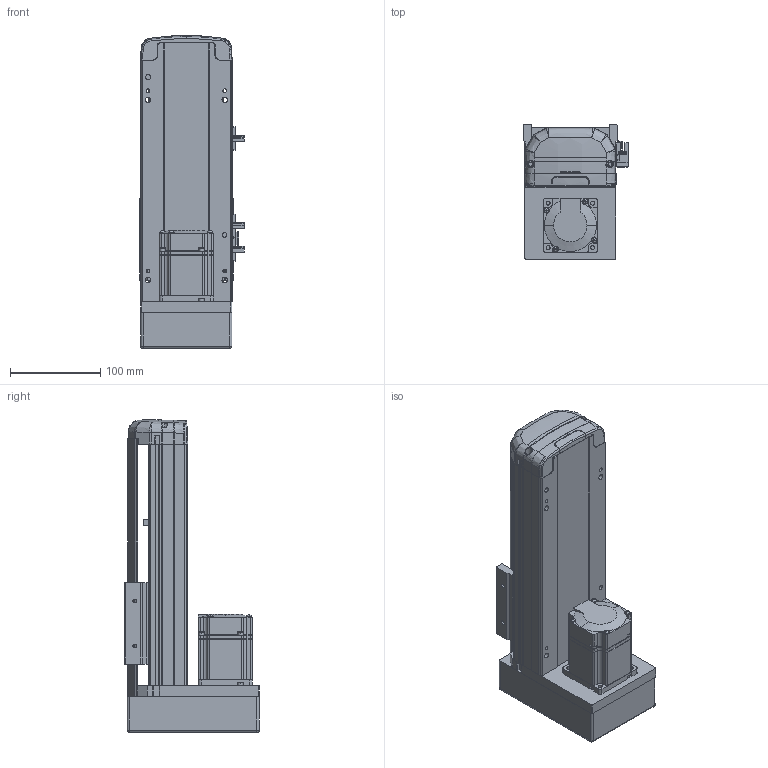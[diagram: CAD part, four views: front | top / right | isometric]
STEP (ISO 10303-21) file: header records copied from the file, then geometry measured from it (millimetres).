
FILE_DESCRIPTION (( 'STEP AP214' ), '1' );
FILE_NAME ('RTH10-XX-100-M-M20-C4.STEP', '2025-10-25T04:02:55', ( 'Microsoft' ), ( 'Microsoft' ), 'SwSTEP 2.0', 'SolidWorks 2018', '' );
FILE_SCHEMA (( 'AUTOMOTIVE_DESIGN' ));
Length unit declared in the file: millimetre
Products named in the file (10): N_RTH12-M-008-萇儂啣^RTH10-XX-XX-M-M20-C4; N_200W-1^RTH10-XX-XX-M-M20-C4; N_RTH12-M-007P-奻裔^RTH10-XX-XX-M-M20-C4; N_OMRON EE-SX672 传感器^RTH10-XX-XX-M-M20-C4; N_RTH12-M-011P-臏倰第菁釱^RTH10-XX-XX-M-M20-C4; N_RTH12-GY-001P^RTH10-XX-XX-M-M20-C4; RTH10-XX-100-M-M20-C4; N_RTH13-L-012覜茼え俋离^RTH10-XX-XX-M-M20-C4; N_RTH12-GY-004-賑釱^RTH10-XX-XX-M-M20-C4; N_RTH12-M-018-裔赽^RTH10-XX-XX-M-M20-C4
Assembly tree (11 placements, depth 2):
  RTH10-XX-100-M-M20-C4
    N_RTH12-M-011P-臏倰第菁釱^RTH10-XX-XX-M-M20-C4
    N_RTH13-L-012覜茼え俋离^RTH10-XX-XX-M-M20-C4
    N_OMRON EE-SX672 传感器^RTH10-XX-XX-M-M20-C4  x3
    N_200W-1^RTH10-XX-XX-M-M20-C4
    N_RTH12-M-007P-奻裔^RTH10-XX-XX-M-M20-C4
    N_RTH12-M-008-萇儂啣^RTH10-XX-XX-M-M20-C4
    N_RTH12-M-018-裔赽^RTH10-XX-XX-M-M20-C4
    N_RTH12-GY-004-賑釱^RTH10-XX-XX-M-M20-C4
    N_RTH12-GY-001P^RTH10-XX-XX-M-M20-C4
Bounding box: 116.5 x 149 x 347.31 mm (x, y, z)
Volume: 2244022.9 mm3; surface area: 341487.9 mm2
Topology: 10 solids, 12 shells, 1929 faces, 5350 edges, 3511 vertices
Faces by surface type: plane 979, bspline 472, cylinder 443, cone 29, sphere 4, torus 2
Entity records: 57440 total; most frequent: CARTESIAN_POINT 22795, ORIENTED_EDGE 7772, DIRECTION 5960, EDGE_CURVE 3892, VERTEX_POINT 2555, VECTOR 2120, LINE 2120, AXIS2_PLACEMENT_3D 1920
